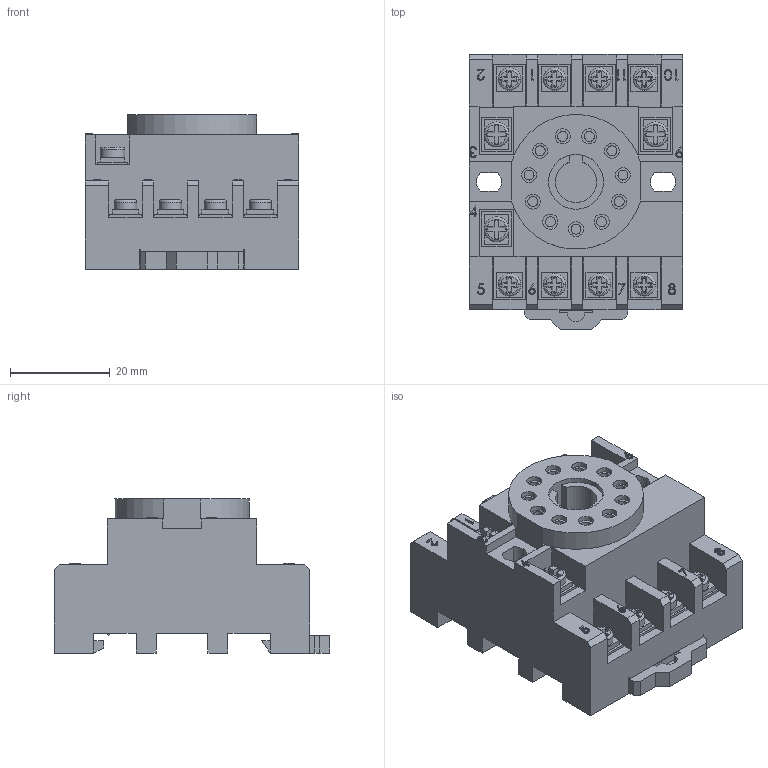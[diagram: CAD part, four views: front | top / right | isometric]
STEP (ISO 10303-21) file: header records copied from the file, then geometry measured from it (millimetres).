
FILE_DESCRIPTION (( 'STEP AP203' ), '1' );
FILE_NAME ('PRT9-11.STEP', '2019-02-22T20:26:28', ( '' ), ( '' ), 'SwSTEP 2.0', 'SolidWorks 2012', '' );
FILE_SCHEMA (( 'CONFIG_CONTROL_DESIGN' ));
Length unit declared in the file: millimetre
Products named in the file (1): PRT9-11
Bounding box: 42.85 x 55.2 x 30.9 mm (x, y, z)
Volume: 40959.1 mm3; surface area: 14013.3 mm2
Topology: 1 solids, 1 shells, 735 faces, 1918 edges, 1260 vertices
Faces by surface type: plane 561, cylinder 80, bspline 72, torus 22
Entity records: 26479 total; most frequent: CARTESIAN_POINT 8700, ORIENTED_EDGE 3836, DIRECTION 3272, EDGE_CURVE 1918, VECTOR 1520, LINE 1520, VERTEX_POINT 1260, AXIS2_PLACEMENT_3D 876
